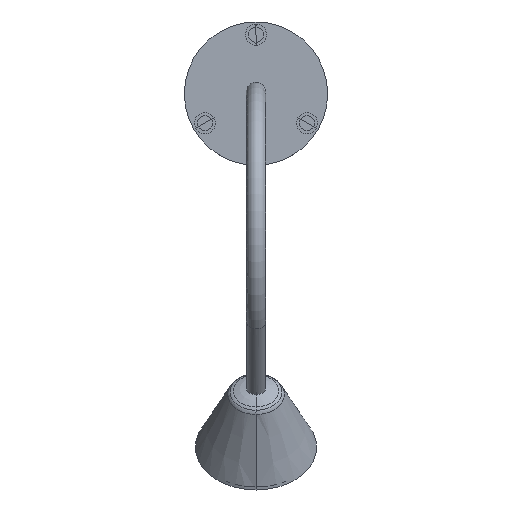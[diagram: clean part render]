
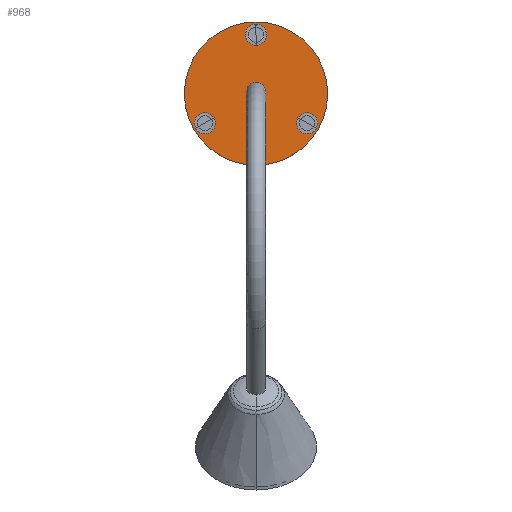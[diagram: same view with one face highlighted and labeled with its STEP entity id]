
A CAD part, top view. The second image highlights one B-rep face of the part: STEP entity #968.
In plain terms, the highlighted planar face has unit normal (0, 0, 1).
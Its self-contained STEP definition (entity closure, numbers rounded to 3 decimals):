
#28=FACE_BOUND('',#251,.T.);
#29=FACE_BOUND('',#252,.T.);
#30=FACE_BOUND('',#253,.T.);
#175=FACE_OUTER_BOUND('',#250,.T.);
#250=EDGE_LOOP('',(#863,#864));
#251=EDGE_LOOP('',(#865,#866));
#252=EDGE_LOOP('',(#867,#868));
#253=EDGE_LOOP('',(#869,#870));
#302=CIRCLE('',#1083,6.234);
#303=CIRCLE('',#1085,6.234);
#308=CIRCLE('',#1093,6.234);
#309=CIRCLE('',#1095,6.234);
#314=CIRCLE('',#1103,6.234);
#315=CIRCLE('',#1105,6.234);
#316=CIRCLE('',#1107,42.5);
#318=CIRCLE('',#1110,42.5);
#475=VERTEX_POINT('',#1775);
#476=VERTEX_POINT('',#1777);
#481=VERTEX_POINT('',#1795);
#482=VERTEX_POINT('',#1797);
#487=VERTEX_POINT('',#1815);
#488=VERTEX_POINT('',#1817);
#489=VERTEX_POINT('',#1823);
#490=VERTEX_POINT('',#1824);
#590=EDGE_CURVE('',#476,#475,#302,.T.);
#592=EDGE_CURVE('',#475,#476,#303,.T.);
#600=EDGE_CURVE('',#482,#481,#308,.T.);
#602=EDGE_CURVE('',#481,#482,#309,.T.);
#610=EDGE_CURVE('',#488,#487,#314,.T.);
#612=EDGE_CURVE('',#487,#488,#315,.T.);
#613=EDGE_CURVE('',#489,#490,#316,.T.);
#617=EDGE_CURVE('',#490,#489,#318,.T.);
#863=ORIENTED_EDGE('',*,*,#617,.T.);
#864=ORIENTED_EDGE('',*,*,#613,.T.);
#865=ORIENTED_EDGE('',*,*,#612,.T.);
#866=ORIENTED_EDGE('',*,*,#610,.T.);
#867=ORIENTED_EDGE('',*,*,#602,.T.);
#868=ORIENTED_EDGE('',*,*,#600,.T.);
#869=ORIENTED_EDGE('',*,*,#592,.T.);
#870=ORIENTED_EDGE('',*,*,#590,.T.);
#896=PLANE('',#1113);
#968=ADVANCED_FACE('',(#175,#28,#29,#30),#896,.T.);
#1083=AXIS2_PLACEMENT_3D('',#1778,#1369,#1370);
#1085=AXIS2_PLACEMENT_3D('',#1781,#1374,#1375);
#1093=AXIS2_PLACEMENT_3D('',#1798,#1393,#1394);
#1095=AXIS2_PLACEMENT_3D('',#1801,#1398,#1399);
#1103=AXIS2_PLACEMENT_3D('',#1818,#1417,#1418);
#1105=AXIS2_PLACEMENT_3D('',#1821,#1422,#1423);
#1107=AXIS2_PLACEMENT_3D('',#1825,#1426,#1427);
#1110=AXIS2_PLACEMENT_3D('',#1832,#1434,#1435);
#1113=AXIS2_PLACEMENT_3D('',#1835,#1440,#1441);
#1369=DIRECTION('center_axis',(0.,0.,-1.));
#1370=DIRECTION('ref_axis',(0.995,-0.105,0.));
#1374=DIRECTION('center_axis',(0.,0.,-1.));
#1375=DIRECTION('ref_axis',(0.995,-0.105,0.));
#1393=DIRECTION('center_axis',(0.,0.,-1.));
#1394=DIRECTION('ref_axis',(-0.407,0.914,0.));
#1398=DIRECTION('center_axis',(0.,0.,-1.));
#1399=DIRECTION('ref_axis',(-0.407,0.914,0.));
#1417=DIRECTION('center_axis',(0.,0.,-1.));
#1418=DIRECTION('ref_axis',(-0.588,-0.809,0.));
#1422=DIRECTION('center_axis',(0.,0.,-1.));
#1423=DIRECTION('ref_axis',(-0.588,-0.809,0.));
#1426=DIRECTION('center_axis',(0.,0.,1.));
#1427=DIRECTION('ref_axis',(1.,0.,0.));
#1434=DIRECTION('center_axis',(0.,0.,1.));
#1435=DIRECTION('ref_axis',(1.,0.,0.));
#1440=DIRECTION('center_axis',(0.,0.,1.));
#1441=DIRECTION('ref_axis',(0.,1.,0.));
#1775=CARTESIAN_POINT('',(-24.907,-14.38,4.));
#1777=CARTESIAN_POINT('',(-35.705,-20.614,4.));
#1778=CARTESIAN_POINT('Origin',(-30.306,-17.497,4.));
#1781=CARTESIAN_POINT('Origin',(-30.306,-17.497,4.));
#1795=CARTESIAN_POINT('',(24.907,-14.38,4.));
#1797=CARTESIAN_POINT('',(35.705,-20.614,4.));
#1798=CARTESIAN_POINT('Origin',(30.306,-17.497,4.));
#1801=CARTESIAN_POINT('Origin',(30.306,-17.497,4.));
#1815=CARTESIAN_POINT('',(0.,28.76,4.));
#1817=CARTESIAN_POINT('',(0.,41.229,4.));
#1818=CARTESIAN_POINT('Origin',(0.,34.994,4.));
#1821=CARTESIAN_POINT('Origin',(0.,34.994,
4.));
#1823=CARTESIAN_POINT('',(42.5,0.,4.));
#1824=CARTESIAN_POINT('',(-42.5,0.,4.));
#1825=CARTESIAN_POINT('Origin',(0.,0.,4.));
#1832=CARTESIAN_POINT('Origin',(0.,0.,4.));
#1835=CARTESIAN_POINT('Origin',(42.5,0.,4.));
